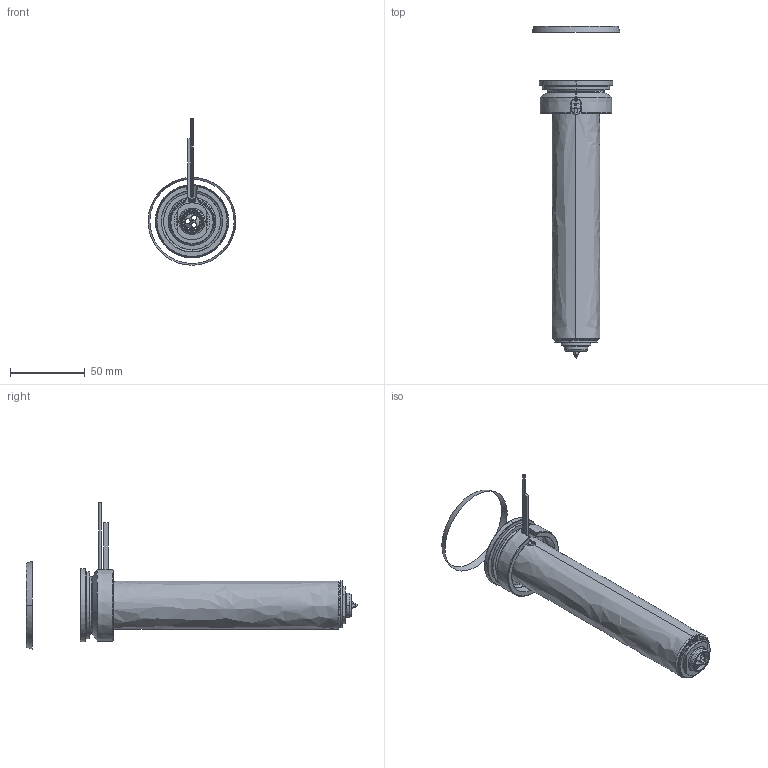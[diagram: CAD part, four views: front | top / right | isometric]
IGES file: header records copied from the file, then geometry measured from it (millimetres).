
Start section: SolidWorks IGES file using analytic representation for surfaces
Global section: file name: C:\Documents and Settings\ws-20\Desktop\TEM\UGEP5004-S-A-1 [Øf-0.80 ØC-12].IGS; native system: SolidWorks 2012; preprocessor: SolidWorks 2012; author: ws-20; date: 120426.095905; units: millimetre
Bounding box: 58.79 x 222.24 x 98.01 mm (x, y, z)
Surface area: 67508.8 mm2 (no closed solid volume)
Topology: 0 solids, 0 shells, 123 faces, 2398 edges, 2398 vertices
Faces by surface type: revolution 79, bspline 44
